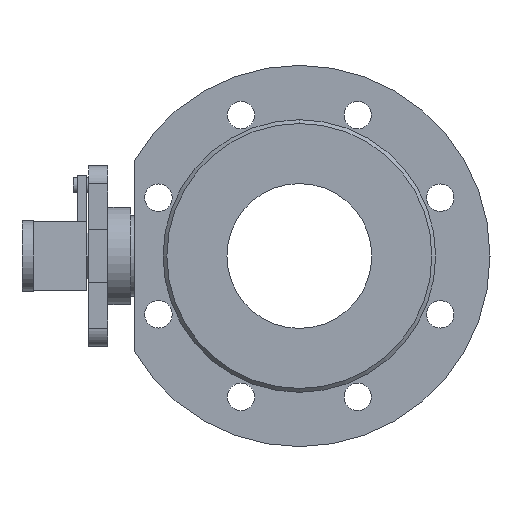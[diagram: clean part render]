
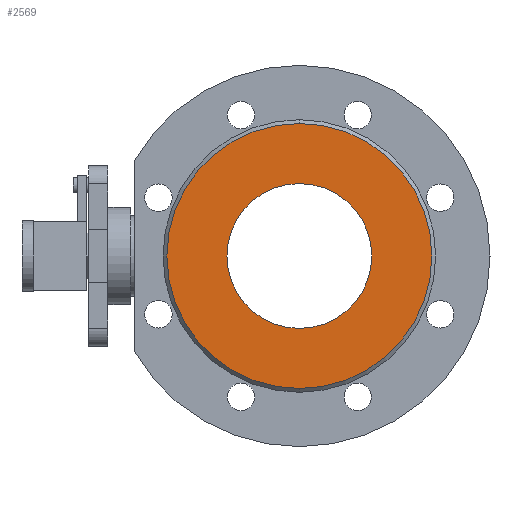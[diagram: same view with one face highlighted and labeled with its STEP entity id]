
A CAD part, left-side view. The second image highlights one B-rep face of the part: STEP entity #2569.
In plain terms, the highlighted planar face has unit normal (-1, 0, 0).
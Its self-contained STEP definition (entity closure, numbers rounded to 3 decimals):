
#385 = DIRECTION ( 'NONE',  ( 1., 0., 0. ) ) ;
#530 = CIRCLE ( 'NONE', #4432, 69.5 ) ;
#617 = FACE_OUTER_BOUND ( 'NONE', #3924, .T. ) ;
#636 = DIRECTION ( 'NONE',  ( -1., 0., 0. ) ) ;
#661 = EDGE_CURVE ( 'NONE', #2711, #2448, #1485, .T. ) ;
#834 = DIRECTION ( 'NONE',  ( -1., 0., 0. ) ) ;
#965 = CARTESIAN_POINT ( 'NONE',  ( -59., 0., 0. ) ) ;
#1193 = AXIS2_PLACEMENT_3D ( 'NONE', #4258, #385, #2863 ) ;
#1328 = DIRECTION ( 'NONE',  ( 0., 0., 1. ) ) ;
#1485 = CIRCLE ( 'NONE', #2676, 38. ) ;
#1679 = DIRECTION ( 'NONE',  ( -1., 0., 0. ) ) ;
#1748 = CARTESIAN_POINT ( 'NONE',  ( -59., 0., 38. ) ) ;
#1760 = VERTEX_POINT ( 'NONE', #3933 ) ;
#1984 = VERTEX_POINT ( 'NONE', #2397 ) ;
#2267 = CIRCLE ( 'NONE', #2635, 69.5 ) ;
#2389 = EDGE_LOOP ( 'NONE', ( #3860, #2894 ) ) ;
#2397 = CARTESIAN_POINT ( 'NONE',  ( -59., 0., -69.5 ) ) ;
#2448 = VERTEX_POINT ( 'NONE', #1748 ) ;
#2569 = ADVANCED_FACE ( 'NONE', ( #4242, #617 ), #3901, .F. ) ;
#2635 = AXIS2_PLACEMENT_3D ( 'NONE', #965, #3426, #1328 ) ;
#2676 = AXIS2_PLACEMENT_3D ( 'NONE', #2949, #834, #3302 ) ;
#2711 = VERTEX_POINT ( 'NONE', #3758 ) ;
#2750 = CARTESIAN_POINT ( 'NONE',  ( -59., 0., 0. ) ) ;
#2797 = ORIENTED_EDGE ( 'NONE', *, *, #3839, .T. ) ;
#2863 = DIRECTION ( 'NONE',  ( 0., 0., -1. ) ) ;
#2894 = ORIENTED_EDGE ( 'NONE', *, *, #661, .F. ) ;
#2949 = CARTESIAN_POINT ( 'NONE',  ( -59., 0., 0. ) ) ;
#3067 = CIRCLE ( 'NONE', #3091, 38. ) ;
#3091 = AXIS2_PLACEMENT_3D ( 'NONE', #2750, #636, #3092 ) ;
#3092 = DIRECTION ( 'NONE',  ( 0., 0., 1. ) ) ;
#3302 = DIRECTION ( 'NONE',  ( 0., 0., 1. ) ) ;
#3426 = DIRECTION ( 'NONE',  ( -1., 0., 0. ) ) ;
#3439 = EDGE_CURVE ( 'NONE', #1760, #1984, #2267, .T. ) ;
#3444 = EDGE_CURVE ( 'NONE', #2448, #2711, #3067, .T. ) ;
#3454 = ORIENTED_EDGE ( 'NONE', *, *, #3439, .T. ) ;
#3758 = CARTESIAN_POINT ( 'NONE',  ( -59., 0., -38. ) ) ;
#3775 = CARTESIAN_POINT ( 'NONE',  ( -59., 0., 0. ) ) ;
#3839 = EDGE_CURVE ( 'NONE', #1984, #1760, #530, .T. ) ;
#3860 = ORIENTED_EDGE ( 'NONE', *, *, #3444, .F. ) ;
#3901 = PLANE ( 'NONE',  #1193 ) ;
#3924 = EDGE_LOOP ( 'NONE', ( #2797, #3454 ) ) ;
#3933 = CARTESIAN_POINT ( 'NONE',  ( -59., 0., 69.5 ) ) ;
#4139 = DIRECTION ( 'NONE',  ( 0., 0., 1. ) ) ;
#4242 = FACE_BOUND ( 'NONE', #2389, .T. ) ;
#4258 = CARTESIAN_POINT ( 'NONE',  ( -59., 69.5, 0. ) ) ;
#4432 = AXIS2_PLACEMENT_3D ( 'NONE', #3775, #1679, #4139 ) ;
